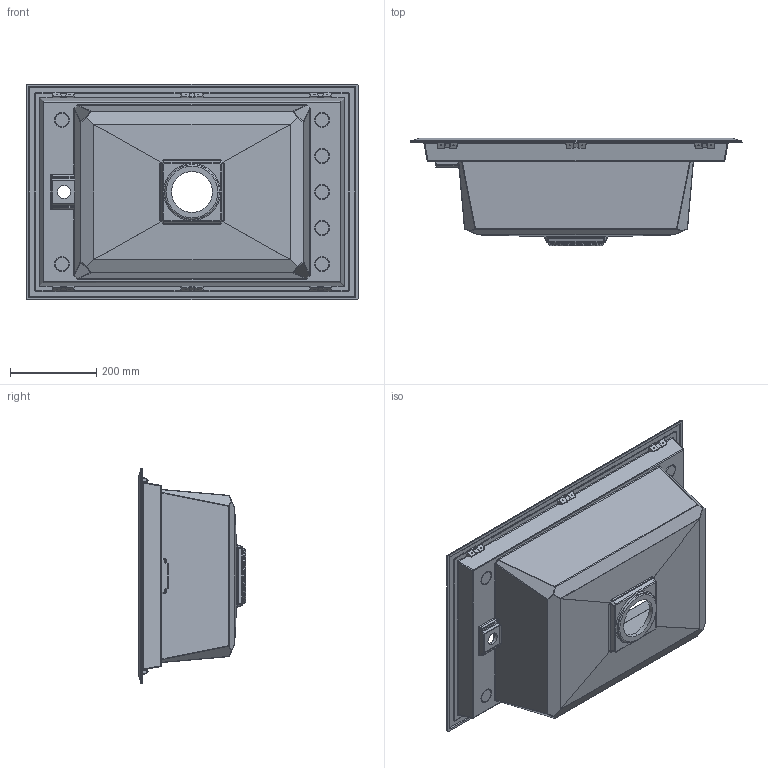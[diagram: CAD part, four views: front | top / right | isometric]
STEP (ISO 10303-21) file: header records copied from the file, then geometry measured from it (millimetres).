
FILE_DESCRIPTION (( 'STEP AP203' ), '1' );
FILE_NAME ('Value 130.STEP', '2018-10-11T10:33:59', ( '' ), ( '' ), 'SwSTEP 2.0', 'SolidWorks 2013', '' );
FILE_SCHEMA (( 'CONFIG_CONTROL_DESIGN' ));
Length unit declared in the file: millimetre
Products named in the file (1): Value 130
Bounding box: 770.14 x 248.92 x 500.14 mm (x, y, z)
Volume: 5834444 mm3; surface area: 1479823.9 mm2
Topology: 1 solids, 1 shells, 1065 faces, 2512 edges, 1390 vertices
Faces by surface type: cylinder 470, bspline 410, plane 181, cone 4
Entity records: 41018 total; most frequent: CARTESIAN_POINT 19165, ORIENTED_EDGE 4868, DIRECTION 4244, EDGE_CURVE 2434, AXIS2_PLACEMENT_3D 1672, VERTEX_POINT 1390, EDGE_LOOP 1112, ADVANCED_FACE 1065
